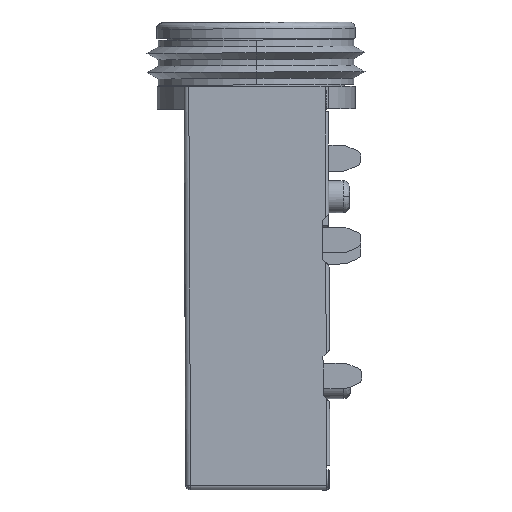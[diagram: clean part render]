
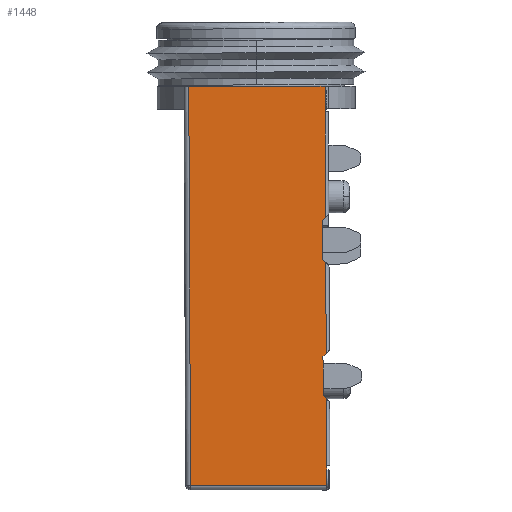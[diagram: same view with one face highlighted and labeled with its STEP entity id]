
A CAD part, left-side view. The second image highlights one B-rep face of the part: STEP entity #1448.
In plain terms, the highlighted planar face has unit normal (-1, 0.004, 0) as drawn and (-1, -0.004, 0) by its records, which use the part's own axes.
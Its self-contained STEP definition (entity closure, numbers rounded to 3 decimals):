
#48 = AXIS2_PLACEMENT_3D ( 'NONE', #4740, #956, #14843 ) ;
#66 = EDGE_CURVE ( 'NONE', #15607, #9481, #9982, .T. ) ;
#253 = DIRECTION ( 'NONE',  ( -0.003, 0.704, -0.71 ) ) ;
#329 = VERTEX_POINT ( 'NONE', #3078 ) ;
#397 = EDGE_CURVE ( 'NONE', #12995, #11036, #16567, .T. ) ;
#956 = DIRECTION ( 'NONE',  ( -1., -0.004, 0. ) ) ;
#958 = LINE ( 'NONE', #8449, #2859 ) ;
#1037 = ORIENTED_EDGE ( 'NONE', *, *, #397, .T. ) ;
#1299 = DIRECTION ( 'NONE',  ( 0., -0.004, -1. ) ) ;
#1333 = CARTESIAN_POINT ( 'NONE',  ( -3.331, -4.177, -12.581 ) ) ;
#1448 = ADVANCED_FACE ( 'NONE', ( #9879 ), #5925, .T. ) ;
#1544 = CARTESIAN_POINT ( 'NONE',  ( -3.35, 0.125, -0.75 ) ) ;
#1546 = ORIENTED_EDGE ( 'NONE', *, *, #13670, .T. ) ;
#1585 = DIRECTION ( 'NONE',  ( 0.003, -0.71, -0.704 ) ) ;
#1618 = EDGE_CURVE ( 'NONE', #11036, #3001, #15422, .T. ) ;
#1844 = ORIENTED_EDGE ( 'NONE', *, *, #15390, .T. ) ;
#1896 = DIRECTION ( 'NONE',  ( -0.003, 0.704, -0.71 ) ) ;
#2183 = EDGE_LOOP ( 'NONE', ( #1546, #12153, #6641, #8372, #15254, #15150, #1844, #1037, #9711, #14159, #16474, #15093, #10847, #3449 ) ) ;
#2272 = CARTESIAN_POINT ( 'NONE',  ( -3.331, -4.177, -12.581 ) ) ;
#2303 = CARTESIAN_POINT ( 'NONE',  ( -3.35, 0.116, -2.855 ) ) ;
#2637 = DIRECTION ( 'NONE',  ( 0., -0.004, -1. ) ) ;
#2708 = CARTESIAN_POINT ( 'NONE',  ( -3.35, 0.125, -0.75 ) ) ;
#2859 = VECTOR ( 'NONE', #7021, 1000. ) ;
#2946 = DIRECTION ( 'NONE',  ( 0., -0.004, -1. ) ) ;
#3001 = VERTEX_POINT ( 'NONE', #12944 ) ;
#3002 = EDGE_CURVE ( 'NONE', #16564, #329, #6530, .T. ) ;
#3078 = CARTESIAN_POINT ( 'NONE',  ( -3.35, 0.097, -7.1 ) ) ;
#3190 = LINE ( 'NONE', #4363, #11773 ) ;
#3191 = CARTESIAN_POINT ( 'NONE',  ( -3.35, 0.015, -2.955 ) ) ;
#3358 = DIRECTION ( 'NONE',  ( 0., -0.004, -1. ) ) ;
#3449 = ORIENTED_EDGE ( 'NONE', *, *, #6009, .T. ) ;
#3493 = EDGE_CURVE ( 'NONE', #11561, #11902, #3831, .T. ) ;
#3597 = DIRECTION ( 'NONE',  ( 0.004, -1., 0.004 ) ) ;
#3761 = VERTEX_POINT ( 'NONE', #14831 ) ;
#3812 = EDGE_CURVE ( 'NONE', #11902, #15607, #11759, .T. ) ;
#3831 = LINE ( 'NONE', #8950, #6712 ) ;
#3946 = CARTESIAN_POINT ( 'NONE',  ( -3.35, 0.116, -2.855 ) ) ;
#4363 = CARTESIAN_POINT ( 'NONE',  ( -3.35, 0.097, -7.1 ) ) ;
#4740 = CARTESIAN_POINT ( 'NONE',  ( -3.35, 0.078, -11.55 ) ) ;
#5112 = VECTOR ( 'NONE', #2946, 1000. ) ;
#5155 = EDGE_CURVE ( 'NONE', #11307, #11430, #12382, .T. ) ;
#5188 = EDGE_CURVE ( 'NONE', #11307, #9481, #8537, .T. ) ;
#5858 = VERTEX_POINT ( 'NONE', #9457 ) ;
#5869 = VECTOR ( 'NONE', #2637, 1000. ) ;
#5895 = CARTESIAN_POINT ( 'NONE',  ( -3.331, -4.141, -4.294 ) ) ;
#5925 = PLANE ( 'NONE',  #48 ) ;
#6009 = EDGE_CURVE ( 'NONE', #5858, #3761, #8766, .T. ) ;
#6368 = CARTESIAN_POINT ( 'NONE',  ( -3.35, 0.127, -0.15 ) ) ;
#6530 = LINE ( 'NONE', #14281, #6960 ) ;
#6641 = ORIENTED_EDGE ( 'NONE', *, *, #3812, .T. ) ;
#6644 = CARTESIAN_POINT ( 'NONE',  ( -3.35, 0.01, -4.155 ) ) ;
#6712 = VECTOR ( 'NONE', #1299, 1000. ) ;
#6960 = VECTOR ( 'NONE', #10489, 1000. ) ;
#7021 = DIRECTION ( 'NONE',  ( 0., -0.004, -1. ) ) ;
#7023 = CARTESIAN_POINT ( 'NONE',  ( -3.35, 0.11, -4.255 ) ) ;
#7147 = CARTESIAN_POINT ( 'NONE',  ( -3.331, -4.123, -0.15 ) ) ;
#7495 = VECTOR ( 'NONE', #253, 1000. ) ;
#7579 = VECTOR ( 'NONE', #11219, 1000. ) ;
#7811 = VECTOR ( 'NONE', #7822, 1000. ) ;
#7822 = DIRECTION ( 'NONE',  ( 0., -0.004, -1. ) ) ;
#8063 = VECTOR ( 'NONE', #3597, 1000. ) ;
#8215 = VECTOR ( 'NONE', #1896, 1000. ) ;
#8335 = DIRECTION ( 'NONE',  ( -0.004, 1., 0. ) ) ;
#8372 = ORIENTED_EDGE ( 'NONE', *, *, #66, .T. ) ;
#8449 = CARTESIAN_POINT ( 'NONE',  ( -3.35, 0.127, -0.15 ) ) ;
#8476 = CARTESIAN_POINT ( 'NONE',  ( -3.331, -4.123, -0.15 ) ) ;
#8537 = B_SPLINE_CURVE_WITH_KNOTS ( 'NONE', 3,
 ( #11032, #5895, #8671, #2272 ),
 .UNSPECIFIED., .F., .F.,
 ( 4, 4 ),
 ( 0., 1. ),
 .UNSPECIFIED. ) ;
#8671 = CARTESIAN_POINT ( 'NONE',  ( -3.331, -4.159, -8.437 ) ) ;
#8766 = LINE ( 'NONE', #13912, #5869 ) ;
#8950 = CARTESIAN_POINT ( 'NONE',  ( -3.35, 0.091, -8.5 ) ) ;
#9302 = CARTESIAN_POINT ( 'NONE',  ( -3.35, 0.091, -8.5 ) ) ;
#9457 = CARTESIAN_POINT ( 'NONE',  ( -3.35, -0.003, -7.199 ) ) ;
#9481 = VERTEX_POINT ( 'NONE', #1333 ) ;
#9673 = VECTOR ( 'NONE', #8335, 1000. ) ;
#9711 = ORIENTED_EDGE ( 'NONE', *, *, #1618, .T. ) ;
#9879 = FACE_OUTER_BOUND ( 'NONE', #2183, .T. ) ;
#9941 = VERTEX_POINT ( 'NONE', #13457 ) ;
#9943 = EDGE_CURVE ( 'NONE', #329, #5858, #3190, .T. ) ;
#9982 = LINE ( 'NONE', #11487, #8063 ) ;
#10489 = DIRECTION ( 'NONE',  ( 0., -0.004, -1. ) ) ;
#10847 = ORIENTED_EDGE ( 'NONE', *, *, #9943, .T. ) ;
#10863 = EDGE_CURVE ( 'NONE', #9941, #16564, #13227, .T. ) ;
#10897 = LINE ( 'NONE', #15864, #8215 ) ;
#11032 = CARTESIAN_POINT ( 'NONE',  ( -3.331, -4.123, -0.15 ) ) ;
#11036 = VERTEX_POINT ( 'NONE', #3946 ) ;
#11219 = DIRECTION ( 'NONE',  ( 0.003, -0.71, -0.704 ) ) ;
#11307 = VERTEX_POINT ( 'NONE', #8476 ) ;
#11379 = EDGE_CURVE ( 'NONE', #3001, #9941, #13712, .T. ) ;
#11430 = VERTEX_POINT ( 'NONE', #6368 ) ;
#11487 = CARTESIAN_POINT ( 'NONE',  ( -3.35, 0.073, -12.6 ) ) ;
#11561 = VERTEX_POINT ( 'NONE', #9302 ) ;
#11759 = LINE ( 'NONE', #15555, #5112 ) ;
#11773 = VECTOR ( 'NONE', #1585, 1000. ) ;
#11902 = VERTEX_POINT ( 'NONE', #12900 ) ;
#12153 = ORIENTED_EDGE ( 'NONE', *, *, #3493, .T. ) ;
#12382 = LINE ( 'NONE', #7147, #9673 ) ;
#12668 = CARTESIAN_POINT ( 'NONE',  ( -3.35, 0.073, -12.6 ) ) ;
#12900 = CARTESIAN_POINT ( 'NONE',  ( -3.35, 0.077, -11.8 ) ) ;
#12944 = CARTESIAN_POINT ( 'NONE',  ( -3.35, 0.015, -2.955 ) ) ;
#12995 = VERTEX_POINT ( 'NONE', #1544 ) ;
#13227 = LINE ( 'NONE', #6644, #7495 ) ;
#13457 = CARTESIAN_POINT ( 'NONE',  ( -3.35, 0.01, -4.155 ) ) ;
#13670 = EDGE_CURVE ( 'NONE', #3761, #11561, #10897, .T. ) ;
#13712 = LINE ( 'NONE', #3191, #15147 ) ;
#13912 = CARTESIAN_POINT ( 'NONE',  ( -3.35, -0.003, -7.199 ) ) ;
#14159 = ORIENTED_EDGE ( 'NONE', *, *, #11379, .T. ) ;
#14281 = CARTESIAN_POINT ( 'NONE',  ( -3.35, 0.11, -4.255 ) ) ;
#14831 = CARTESIAN_POINT ( 'NONE',  ( -3.35, -0.009, -8.399 ) ) ;
#14843 = DIRECTION ( 'NONE',  ( 0.004, -1., 0. ) ) ;
#15093 = ORIENTED_EDGE ( 'NONE', *, *, #3002, .T. ) ;
#15147 = VECTOR ( 'NONE', #3358, 1000. ) ;
#15150 = ORIENTED_EDGE ( 'NONE', *, *, #5155, .T. ) ;
#15254 = ORIENTED_EDGE ( 'NONE', *, *, #5188, .F. ) ;
#15390 = EDGE_CURVE ( 'NONE', #11430, #12995, #958, .T. ) ;
#15422 = LINE ( 'NONE', #2303, #7579 ) ;
#15555 = CARTESIAN_POINT ( 'NONE',  ( -3.35, 0.077, -11.8 ) ) ;
#15607 = VERTEX_POINT ( 'NONE', #12668 ) ;
#15864 = CARTESIAN_POINT ( 'NONE',  ( -3.35, -0.009, -8.399 ) ) ;
#16474 = ORIENTED_EDGE ( 'NONE', *, *, #10863, .T. ) ;
#16564 = VERTEX_POINT ( 'NONE', #7023 ) ;
#16567 = LINE ( 'NONE', #2708, #7811 ) ;
